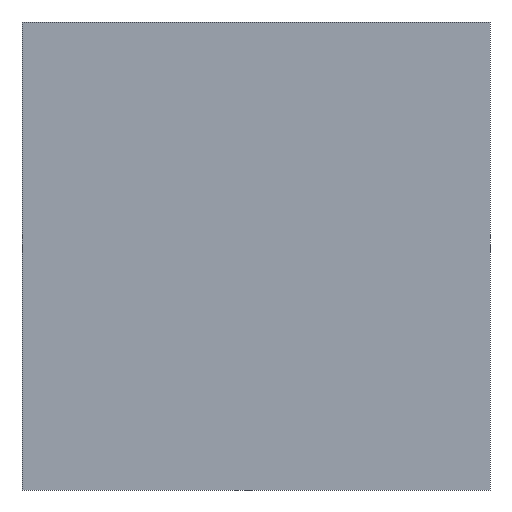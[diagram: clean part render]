
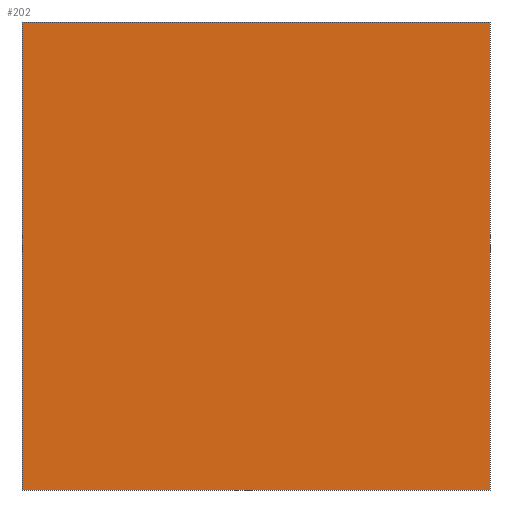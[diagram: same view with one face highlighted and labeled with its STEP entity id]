
A CAD part, front view. The second image highlights one B-rep face of the part: STEP entity #202.
In plain terms, the highlighted planar face has unit normal (0, -1, 0).
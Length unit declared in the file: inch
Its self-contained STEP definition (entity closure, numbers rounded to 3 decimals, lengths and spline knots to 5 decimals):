
#3 = LINE ( 'NONE', #214, #130 ) ;
#4 = EDGE_LOOP ( 'NONE', ( #200, #279, #156, #133 ) ) ;
#8 = CARTESIAN_POINT ( 'NONE',  ( 0.19685, -0.19685, 0.3937 ) ) ;
#12 = CARTESIAN_POINT ( 'NONE',  ( -0.19685, -0.19685, 0.3937 ) ) ;
#33 = VERTEX_POINT ( 'NONE', #75 ) ;
#35 = CARTESIAN_POINT ( 'NONE',  ( -0.19685, -0.19685, 0.3937 ) ) ;
#42 = VECTOR ( 'NONE', #127, 39.37008 ) ;
#51 = VERTEX_POINT ( 'NONE', #235 ) ;
#58 = DIRECTION ( 'NONE',  ( 0., 0., -1. ) ) ;
#75 = CARTESIAN_POINT ( 'NONE',  ( -0.19685, -0.19685, 0. ) ) ;
#82 = CARTESIAN_POINT ( 'NONE',  ( 0.19685, -0.19685, 0.3937 ) ) ;
#85 = DIRECTION ( 'NONE',  ( 0., 0., 1. ) ) ;
#99 = LINE ( 'NONE', #12, #271 ) ;
#105 = LINE ( 'NONE', #218, #42 ) ;
#106 = DIRECTION ( 'NONE',  ( 0., 0., -1. ) ) ;
#113 = VECTOR ( 'NONE', #58, 39.37008 ) ;
#127 = DIRECTION ( 'NONE',  ( 1., 0., 0. ) ) ;
#130 = VECTOR ( 'NONE', #106, 39.37008 ) ;
#133 = ORIENTED_EDGE ( 'NONE', *, *, #153, .T. ) ;
#147 = CARTESIAN_POINT ( 'NONE',  ( -0.19685, -0.19685, 0.3937 ) ) ;
#153 = EDGE_CURVE ( 'NONE', #160, #33, #3, .T. ) ;
#156 = ORIENTED_EDGE ( 'NONE', *, *, #231, .F. ) ;
#160 = VERTEX_POINT ( 'NONE', #35 ) ;
#164 = EDGE_CURVE ( 'NONE', #174, #51, #167, .T. ) ;
#167 = LINE ( 'NONE', #8, #113 ) ;
#174 = VERTEX_POINT ( 'NONE', #82 ) ;
#175 = DIRECTION ( 'NONE',  ( 1., 0., 0. ) ) ;
#188 = EDGE_CURVE ( 'NONE', #33, #51, #105, .T. ) ;
#200 = ORIENTED_EDGE ( 'NONE', *, *, #188, .T. ) ;
#202 = ADVANCED_FACE ( 'NONE', ( #277 ), #286, .F. ) ;
#214 = CARTESIAN_POINT ( 'NONE',  ( -0.19685, -0.19685, 0.3937 ) ) ;
#218 = CARTESIAN_POINT ( 'NONE',  ( -0.19685, -0.19685, 0. ) ) ;
#219 = DIRECTION ( 'NONE',  ( 0., 1., 0. ) ) ;
#229 = AXIS2_PLACEMENT_3D ( 'NONE', #147, #219, #85 ) ;
#231 = EDGE_CURVE ( 'NONE', #160, #174, #99, .T. ) ;
#235 = CARTESIAN_POINT ( 'NONE',  ( 0.19685, -0.19685, 0. ) ) ;
#271 = VECTOR ( 'NONE', #175, 39.37008 ) ;
#277 = FACE_OUTER_BOUND ( 'NONE', #4, .T. ) ;
#279 = ORIENTED_EDGE ( 'NONE', *, *, #164, .F. ) ;
#286 = PLANE ( 'NONE',  #229 ) ;
